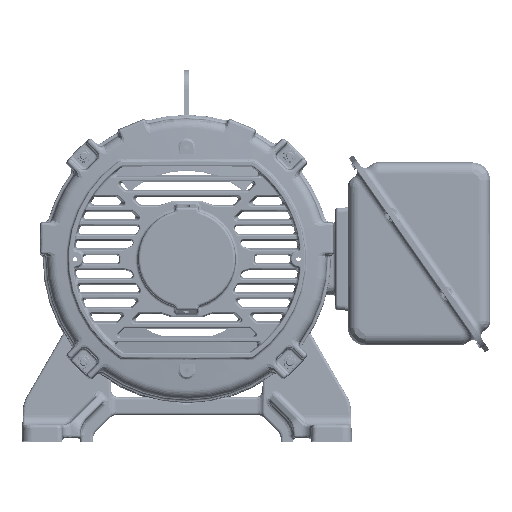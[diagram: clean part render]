
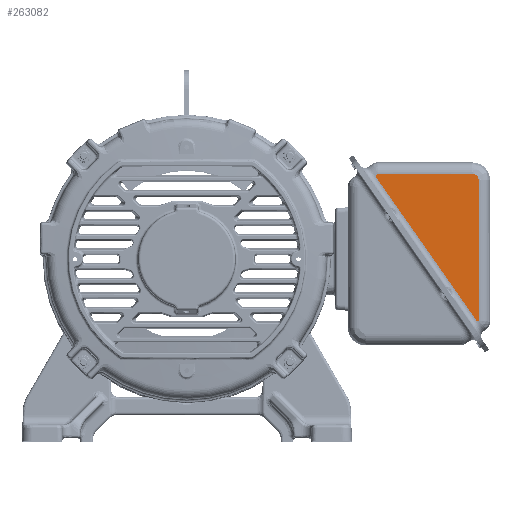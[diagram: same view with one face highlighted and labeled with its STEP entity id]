
A CAD part, top view. The second image highlights one B-rep face of the part: STEP entity #263082.
In plain terms, the highlighted planar face has unit normal (0, 0, 1) as drawn and (-1, 0, 0) by its records, which use the part's own axes.
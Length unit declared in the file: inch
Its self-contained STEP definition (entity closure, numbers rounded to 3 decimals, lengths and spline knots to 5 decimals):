
#260431=DIRECTION('',(0.,-0.819,0.574));
#260432=VECTOR('',#260431,8.75);
#260433=CARTESIAN_POINT('',(-4.0598,3.58782,0.63346));
#260434=LINE('',#260433,#260432);
#260435=DIRECTION('',(0.,0.574,0.819));
#260436=VECTOR('',#260435,0.1922);
#260437=CARTESIAN_POINT('',(-4.0598,-3.69,5.49481));
#260438=LINE('',#260437,#260436);
#260439=DIRECTION('',(0.,0.,1.));
#260440=VECTOR('',#260439,4.62501);
#260441=CARTESIAN_POINT('',(-4.0598,-3.69,0.8698));
#260442=LINE('',#260441,#260440);
#260443=CARTESIAN_POINT('',(-4.0598,-3.3802,0.8698));
#260444=DIRECTION('',(-1.,0.,0.));
#260445=DIRECTION('',(0.,0.,-1.));
#260446=AXIS2_PLACEMENT_3D('',#260443,#260444,#260445);
#260448=DIRECTION('',(0.,-1.,0.));
#260449=VECTOR('',#260448,6.91659);
#260450=CARTESIAN_POINT('',(-4.0598,3.53639,0.56));
#260451=LINE('',#260450,#260449);
#260452=DIRECTION('',(0.,-0.574,-0.819));
#260453=VECTOR('',#260452,0.08967);
#260454=CARTESIAN_POINT('',(-4.0598,3.58782,0.63346));
#260455=LINE('',#260454,#260453);
#262398=CARTESIAN_POINT('',(-4.0598,3.53639,0.56));
#262441=CARTESIAN_POINT('',(-4.0598,-3.69,5.49481));
#262811=CARTESIAN_POINT('',(-4.0598,-3.3802,0.56));
#262812=CARTESIAN_POINT('',(-4.0598,-3.69,0.8698));
#262813=VERTEX_POINT('',#262811);
#262814=VERTEX_POINT('',#262812);
#262820=VERTEX_POINT('',#262398);
#262828=VERTEX_POINT('',#262441);
#262845=CARTESIAN_POINT('',(-4.0598,3.58782,0.63346));
#262846=VERTEX_POINT('',#262845);
#262851=CARTESIAN_POINT('',(-4.0598,-3.57976,5.65225));
#262852=VERTEX_POINT('',#262851);
#263063=CARTESIAN_POINT('',(-4.0598,0.,0.));
#263064=DIRECTION('',(1.,0.,0.));
#263065=DIRECTION('',(0.,0.,-1.));
#263066=AXIS2_PLACEMENT_3D('',#263063,#263064,#263065);
#263067=PLANE('',#263066);
#263069=ORIENTED_EDGE('',*,*,#263068,.T.);
#263071=ORIENTED_EDGE('',*,*,#263070,.F.);
#263073=ORIENTED_EDGE('',*,*,#263072,.F.);
#263075=ORIENTED_EDGE('',*,*,#263074,.F.);
#263077=ORIENTED_EDGE('',*,*,#263076,.F.);
#263079=ORIENTED_EDGE('',*,*,#263078,.F.);
#263080=EDGE_LOOP('',(#263069,#263071,#263073,#263075,#263077,#263079));
#263081=FACE_OUTER_BOUND('',#263080,.F.);
#263082=ADVANCED_FACE('',(#263081),#263067,.F.);
#260447=CIRCLE('',#260446,0.3098);
#263068=EDGE_CURVE('',#262846,#262852,#260434,.T.);
#263070=EDGE_CURVE('',#262828,#262852,#260438,.T.);
#263072=EDGE_CURVE('',#262814,#262828,#260442,.T.);
#263074=EDGE_CURVE('',#262813,#262814,#260447,.T.);
#263076=EDGE_CURVE('',#262820,#262813,#260451,.T.);
#263078=EDGE_CURVE('',#262846,#262820,#260455,.T.);
